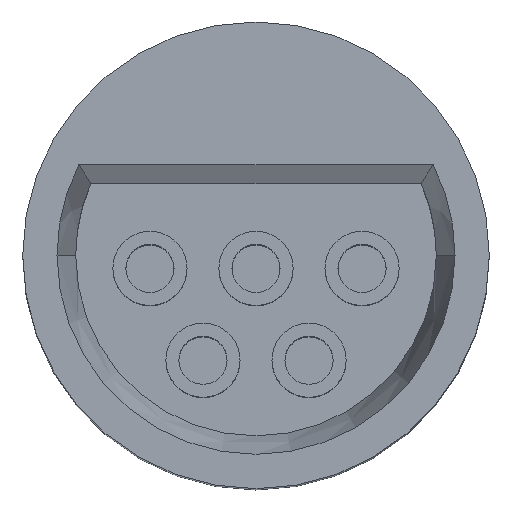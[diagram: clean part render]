
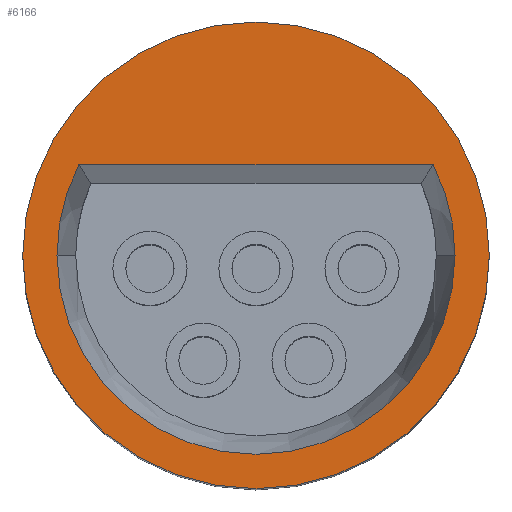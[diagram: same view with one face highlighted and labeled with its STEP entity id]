
A CAD part, top view. The second image highlights one B-rep face of the part: STEP entity #6166.
In plain terms, the highlighted planar face has unit normal (0, 0, 1).
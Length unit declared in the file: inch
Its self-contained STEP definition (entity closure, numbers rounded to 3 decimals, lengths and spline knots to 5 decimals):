
#453 = DIRECTION ( 'NONE',  ( 1., 0., 0. ) ) ;
#454 = DIRECTION ( 'NONE',  ( 0., 0., 1. ) ) ;
#467 = CARTESIAN_POINT ( 'NONE',  ( 0., 0., 0.355 ) ) ;
#471 = PLANE ( 'NONE',  #3503 ) ;
#763 = EDGE_LOOP ( 'NONE', ( #1525, #1226, #1906, #1923 ) ) ;
#769 = EDGE_LOOP ( 'NONE', ( #1526, #1927 ) ) ;
#1075 = CARTESIAN_POINT ( 'NONE',  ( 0., 0., 0.355 ) ) ;
#1077 = DIRECTION ( 'NONE',  ( 0., 0., 1. ) ) ;
#1079 = DIRECTION ( 'NONE',  ( 1., 0., 0. ) ) ;
#1104 = CARTESIAN_POINT ( 'NONE',  ( 0., 0., 0.355 ) ) ;
#1106 = DIRECTION ( 'NONE',  ( 0., 0., -1. ) ) ;
#1130 = DIRECTION ( 'NONE',  ( 1., 0., 0. ) ) ;
#1226 = ORIENTED_EDGE ( 'NONE', *, *, #6010, .T. ) ;
#1525 = ORIENTED_EDGE ( 'NONE', *, *, #5887, .T. ) ;
#1526 = ORIENTED_EDGE ( 'NONE', *, *, #6007, .T. ) ;
#1737 = VERTEX_POINT ( 'NONE', #5212 ) ;
#1775 = VERTEX_POINT ( 'NONE', #5143 ) ;
#1776 = VERTEX_POINT ( 'NONE', #5144 ) ;
#1784 = VERTEX_POINT ( 'NONE', #5127 ) ;
#1788 = VERTEX_POINT ( 'NONE', #5131 ) ;
#1789 = VERTEX_POINT ( 'NONE', #5105 ) ;
#1906 = ORIENTED_EDGE ( 'NONE', *, *, #6023, .T. ) ;
#1923 = ORIENTED_EDGE ( 'NONE', *, *, #5885, .T. ) ;
#1927 = ORIENTED_EDGE ( 'NONE', *, *, #6032, .T. ) ;
#3266 = CIRCLE ( 'NONE', #3438, 0.09382 ) ;
#3438 = AXIS2_PLACEMENT_3D ( 'NONE', #1104, #1106, #1130 ) ;
#3463 = AXIS2_PLACEMENT_3D ( 'NONE', #1075, #1077, #1079 ) ;
#3503 = AXIS2_PLACEMENT_3D ( 'NONE', #467, #454, #453 ) ;
#3571 = CIRCLE ( 'NONE', #3463, 0.11 ) ;
#3675 = DIRECTION ( 'NONE',  ( 0., 0., -1. ) ) ;
#3677 = CARTESIAN_POINT ( 'NONE',  ( 0., 0., 0.355 ) ) ;
#3681 = CARTESIAN_POINT ( 'NONE',  ( 0., 0., 0.355 ) ) ;
#3684 = DIRECTION ( 'NONE',  ( 1., 0., 0. ) ) ;
#3700 = DIRECTION ( 'NONE',  ( 0., 0., 1. ) ) ;
#3730 = DIRECTION ( 'NONE',  ( 1., 0., 0. ) ) ;
#4111 = LINE ( 'NONE', #4901, #4298 ) ;
#4298 = VECTOR ( 'NONE', #4900, 39.37008 ) ;
#4383 = AXIS2_PLACEMENT_3D ( 'NONE', #4912, #4915, #4914 ) ;
#4544 = CIRCLE ( 'NONE', #4383, 0.09382 ) ;
#4900 = DIRECTION ( 'NONE',  ( 1., 0., 0. ) ) ;
#4901 = CARTESIAN_POINT ( 'NONE',  ( 0.0779, 0.04282, 0.355 ) ) ;
#4912 = CARTESIAN_POINT ( 'NONE',  ( 0., 0., 0.355 ) ) ;
#4914 = DIRECTION ( 'NONE',  ( 1., 0., 0. ) ) ;
#4915 = DIRECTION ( 'NONE',  ( 0., 0., -1. ) ) ;
#5105 = CARTESIAN_POINT ( 'NONE',  ( -0.09382, 0., 0.355 ) ) ;
#5127 = CARTESIAN_POINT ( 'NONE',  ( 0.08348, 0.04282, 0.355 ) ) ;
#5131 = CARTESIAN_POINT ( 'NONE',  ( 0.09382, 0., 0.355 ) ) ;
#5143 = CARTESIAN_POINT ( 'NONE',  ( -0.11, 0., 0.355 ) ) ;
#5144 = CARTESIAN_POINT ( 'NONE',  ( 0.11, 0., 0.355 ) ) ;
#5212 = CARTESIAN_POINT ( 'NONE',  ( -0.08348, 0.04282, 0.355 ) ) ;
#5241 = AXIS2_PLACEMENT_3D ( 'NONE', #3681, #3675, #3684 ) ;
#5253 = AXIS2_PLACEMENT_3D ( 'NONE', #3677, #3700, #3730 ) ;
#5324 = CIRCLE ( 'NONE', #5253, 0.11 ) ;
#5404 = CIRCLE ( 'NONE', #5241, 0.09382 ) ;
#5587 = FACE_OUTER_BOUND ( 'NONE', #769, .T. ) ;
#5589 = FACE_BOUND ( 'NONE', #763, .T. ) ;
#5885 = EDGE_CURVE ( 'NONE', #1789, #1737, #4544, .T. ) ;
#5887 = EDGE_CURVE ( 'NONE', #1737, #1784, #4111, .T. ) ;
#6007 = EDGE_CURVE ( 'NONE', #1775, #1776, #5324, .T. ) ;
#6010 = EDGE_CURVE ( 'NONE', #1784, #1788, #5404, .T. ) ;
#6023 = EDGE_CURVE ( 'NONE', #1788, #1789, #3266, .T. ) ;
#6032 = EDGE_CURVE ( 'NONE', #1776, #1775, #3571, .T. ) ;
#6166 = ADVANCED_FACE ( 'NONE', ( #5589, #5587 ), #471, .T. ) ;
